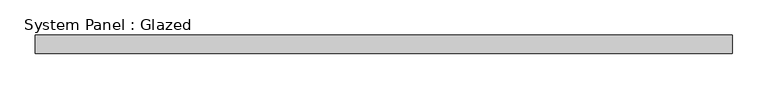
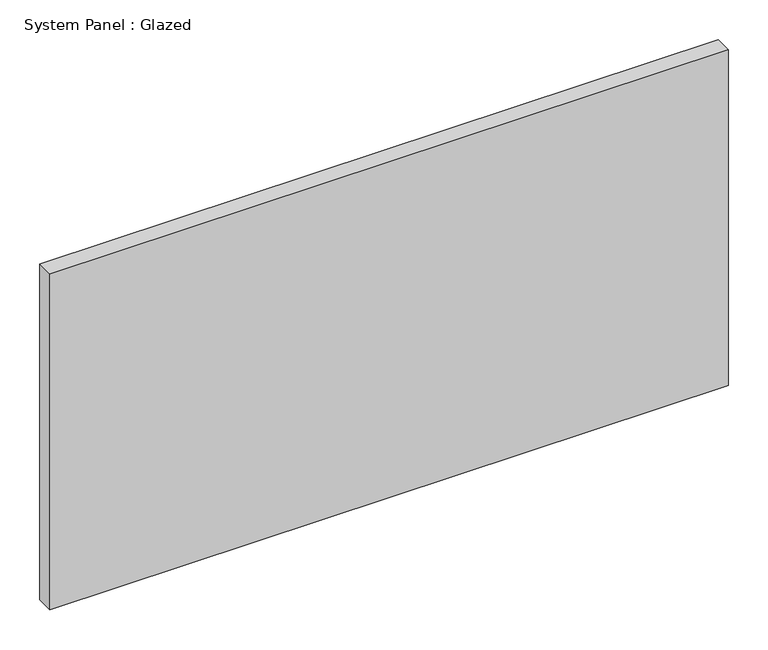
"""IFC4 building model written with IfcOpenShell, lengths in millimetres: plate geometry, System Panel : Glazed."""

from ifc_helpers import new_model, si_unit, origin, origin_with_axes, place, context, project, spatial, polyline, outline, extrude, source, transform, mapped, element, save


def system_panel_glazed_07d0ebf8(model_context):
    return source(origin(), model_context, "Body", "SweptSolid", [
        extrude(outline(polyline([(490.9910714, 19.05), (-490.9910714, 19.05), (-490.9910714, 44.45), (490.9910714, 44.45), (490.9910714, 19.05)])), origin_with_axes(), (0.0, 0.0, 1.0), 514.35),
    ])


if __name__ == "__main__":
    model = new_model("IFC4")
    model_context = context("Model", 3, world=origin())
    ifc_project = project(units=[si_unit("LENGTHUNIT", "METRE", prefix="MILLI")], contexts=[model_context])
    site = spatial("IfcSite", under=ifc_project)
    building = spatial("IfcBuilding", under=site)
    placement = place(None, origin())
    system_panel_glazed_shape = system_panel_glazed_07d0ebf8(model_context)
    element("IfcPlate", 1, ObjectType="System Panel : Glazed", at=placement, inside=building, context=model_context, shape_type="MappedRepresentation", body=[
        mapped(system_panel_glazed_shape, transform((0.0, 0.0, 0.0), x_axis=(1.0, 0.0, 0.0), y_axis=(0.0, 1.0, 0.0), z_axis=(0.0, 0.0, 1.0))),
    ])
    save(model, "model.ifc")
